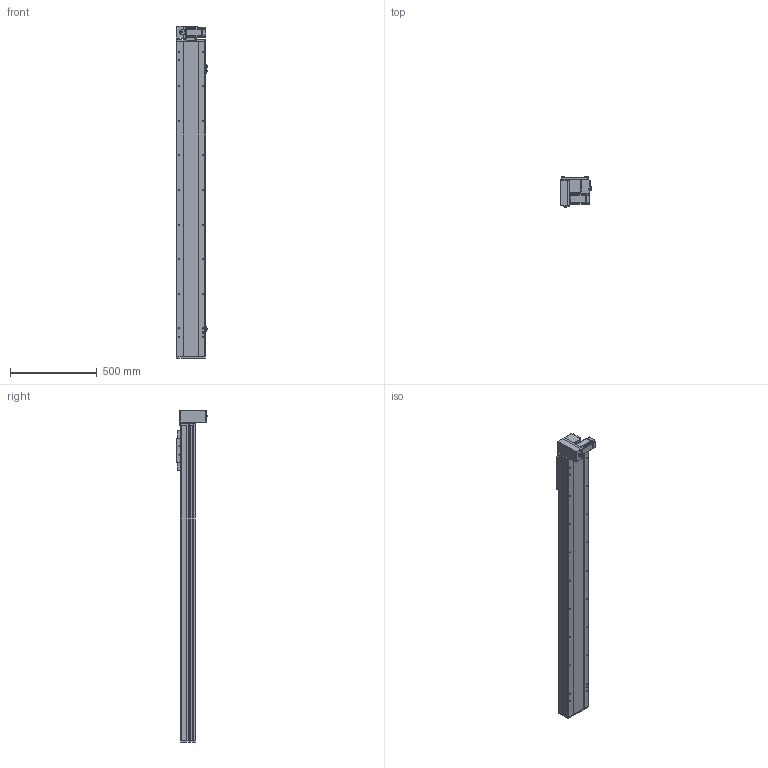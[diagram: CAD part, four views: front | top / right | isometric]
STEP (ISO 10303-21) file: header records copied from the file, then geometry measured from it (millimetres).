
FILE_DESCRIPTION (( 'STEP AP214' ), '1' );
FILE_NAME ('TPE17-L40-1500-LD-T40-C4.STEP', '2023-04-12T01:36:54', ( '' ), ( '' ), 'SwSTEP 2.0', 'SolidWorks 2020', '' );
FILE_SCHEMA (( 'AUTOMOTIVE_DESIGN' ));
Length unit declared in the file: millimetre
Products named in the file (12): 葩璃 TPT14-L-009 萇儂啣^TPE17-L40-LD-T40-C4_400W; hexagon head bolts-full thread gb_GB_FASTENER_BOLT_STBAB A M5X16-N; 葩璃 侂狟400W^TPE17-L40-LD-T40-C4; 葩璃 詩湍110^TPE17-L40-LD-T40-C4; hexagon socket head cap screws gb_GB_FASTENER_SCREWS_HSHCS M3X6-N; TPE17-L40-1500-LD-T40-C4; hex nuts, style 1-grades ab gb_GB_FASTENER_NUT_SNAB1 M3-N; 葩璃 pm-t65-672^TPE17-L40-LD-T40-C4; 葩璃 TPE17 賑雄殤^TPE17-L40-LD-T40-C4; 葩璃 TPE17-L-001 菁釱MZ-170-01^TPE17-L40-LD-T40-C4; 葩璃 TPE17-L-002 耜裔ZTMZ-135-04^TPE17-L40-LD-T40-C4; 葩璃 TPE17-L-007 々湍釱MZ-169x88^TPE17-L40-LD-T40-C4_TPE17
Assembly tree (24 placements, depth 2):
  TPE17-L40-1500-LD-T40-C4
    葩璃 TPE17-L-001 菁釱MZ-170-01^TPE17-L40-LD-T40-C4
    葩璃 TPE17-L-002 耜裔ZTMZ-135-04^TPE17-L40-LD-T40-C4  x2
    葩璃 詩湍110^TPE17-L40-LD-T40-C4
    葩璃 TPE17-L-007 々湍釱MZ-169x88^TPE17-L40-LD-T40-C4_TPE17
    葩璃 TPT14-L-009 萇儂啣^TPE17-L40-LD-T40-C4_400W
    葩璃 TPE17 賑雄殤^TPE17-L40-LD-T40-C4
    葩璃 pm-t65-672^TPE17-L40-LD-T40-C4  x3
    葩璃 侂狟400W^TPE17-L40-LD-T40-C4
    hexagon socket head cap screws gb_GB_FASTENER_SCREWS_HSHCS M3X6-N  x6
    hex nuts, style 1-grades ab gb_GB_FASTENER_NUT_SNAB1 M3-N  x6
    hexagon head bolts-full thread gb_GB_FASTENER_BOLT_STBAB A M5X16-N
Bounding box: 183.7 x 175.15 x 1919 mm (x, y, z)
Volume: 17069206.7 mm3; surface area: 2239469.8 mm2
Topology: 35 solids, 35 shells, 1722 faces, 4387 edges, 2758 vertices
Faces by surface type: plane 981, cylinder 477, cone 218, bspline 34, torus 12
Entity records: 40607 total; most frequent: CARTESIAN_POINT 7922, DIRECTION 6512, ORIENTED_EDGE 6278, EDGE_CURVE 3139, AXIS2_PLACEMENT_3D 2221, LINE 2070, VECTOR 2070, VERTEX_POINT 2021
